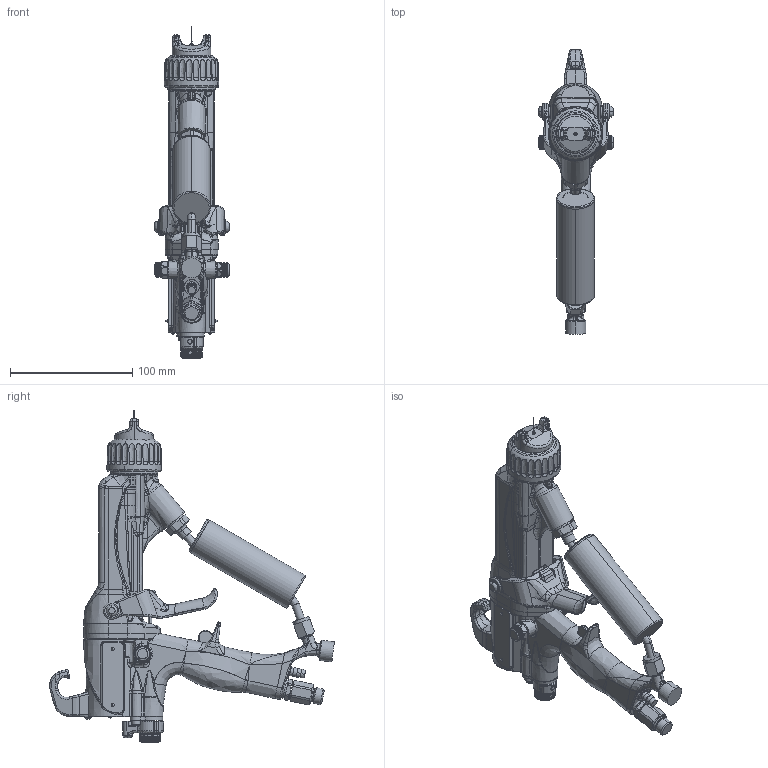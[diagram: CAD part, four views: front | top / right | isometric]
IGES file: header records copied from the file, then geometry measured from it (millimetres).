
Start section:  PTC IGES file: l85t16-en-t.igs
Global section: file name: l85t16-en-t.igs; native system: Creo Parametric by PTC Inc.; preprocessor: 2019030; author: qusrh3; organization: Unknown; date: 20200518.163700; units: inch
Bounding box: 61.15 x 233.22 x 271.93 mm (x, y, z)
Surface area: 101809.4 mm2 (no closed solid volume)
Topology: 0 solids, 0 shells, 2645 faces, 13081 edges, 13072 vertices
Faces by surface type: bspline 1400, revolution 1237, extrusion 8
